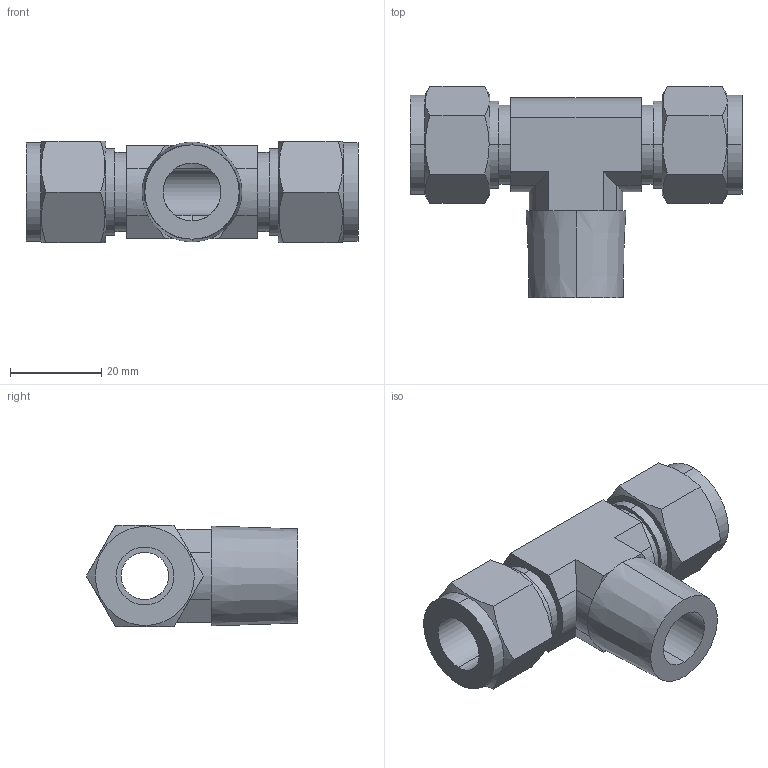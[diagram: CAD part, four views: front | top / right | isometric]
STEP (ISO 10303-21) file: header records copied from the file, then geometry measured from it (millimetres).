
FILE_DESCRIPTION (( 'STEP AP203' ), '1' );
FILE_NAME ('DTN 08-08 SS.STEP', '2009-09-08T10:09:43', ( 'Your User Name' ), ( 'Your Company Name' ), 'SwSTEP 2.0', 'SolidWorks 2008', '' );
FILE_SCHEMA (( 'CONFIG_CONTROL_DESIGN' ));
Length unit declared in the file: millimetre
Products named in the file (1): DTN 08-08 SS
Bounding box: 72.8 x 46.33 x 22.23 mm (x, y, z)
Volume: 24001.2 mm3; surface area: 11723.2 mm2
Topology: 1 solids, 1 shells, 82 faces, 198 edges, 125 vertices
Faces by surface type: plane 43, cylinder 26, cone 13
Entity records: 2764 total; most frequent: CARTESIAN_POINT 787, ORIENTED_EDGE 396, DIRECTION 389, EDGE_CURVE 198, AXIS2_PLACEMENT_3D 147, VERTEX_POINT 125, VECTOR 95, LINE 95
